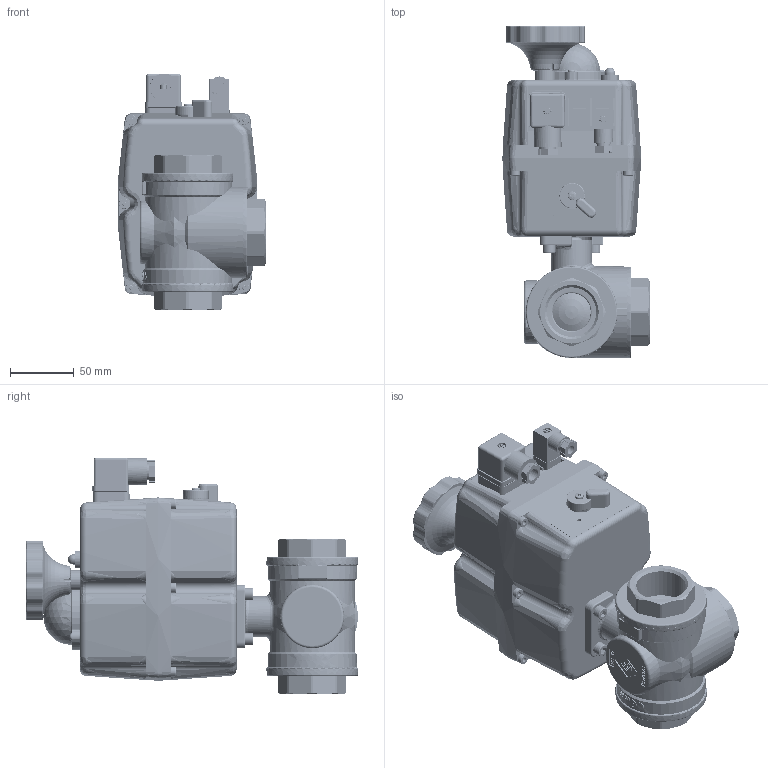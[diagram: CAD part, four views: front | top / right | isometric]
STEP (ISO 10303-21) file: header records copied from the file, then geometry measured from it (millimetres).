
FILE_DESCRIPTION((''),'2;1');
FILE_NAME('M:\3D-Files nach Lieferanten\TA-Produkte\angetriebene Armaturen\Register 9\RB3500_3600\3600032L1S20.stp','2022-02-01T10:57:52',('RL'),(''),'Autodesk Inventor 2012','Autodesk Inventor 2012','');
FILE_SCHEMA(('AUTOMOTIVE_DESIGN { 1 0 10303 214 1 1 1 1 }'));
Length unit declared in the file: millimetre
Products named in the file (1): 3600032L1S20
Bounding box: 115.63 x 260.91 x 186.18 mm (x, y, z)
Volume: 882542 mm3; surface area: 310373.3 mm2
Topology: 2 solids, 45 shells, 3921 faces, 10141 edges, 6465 vertices
Faces by surface type: plane 1894, cylinder 1017, torus 439, bspline 377, cone 143, sphere 51
Full cylindrical faces by diameter (mm): 1.5 x10, 1.6 x6, 2.2 x5, 2.5 x4, 3 x31, 3.5 x39, 3.9 x2, 3.96 x8, 4 x26, 4.25 x6, 4.5 x1, 4.7 x4, 4.9 x2, 5 x10, 5.7 x3, 6 x6, 6.4 x4, 6.5 x4, 6.8 x11, 7 x6, 7.5 x7, 8 x14, 8.05 x1, 8.1 x1, 8.5 x4, 8.9 x3, 9 x2, 10 x8, 10.2 x1, 10.5 x1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
Entity records: 186771 total; most frequent: CARTESIAN_POINT 93892, DIRECTION 19225, ORIENTED_EDGE 18752, EDGE_CURVE 9376, AXIS2_PLACEMENT_3D 7361, VERTEX_POINT 6215, EDGE_LOOP 4636, VECTOR 4503
